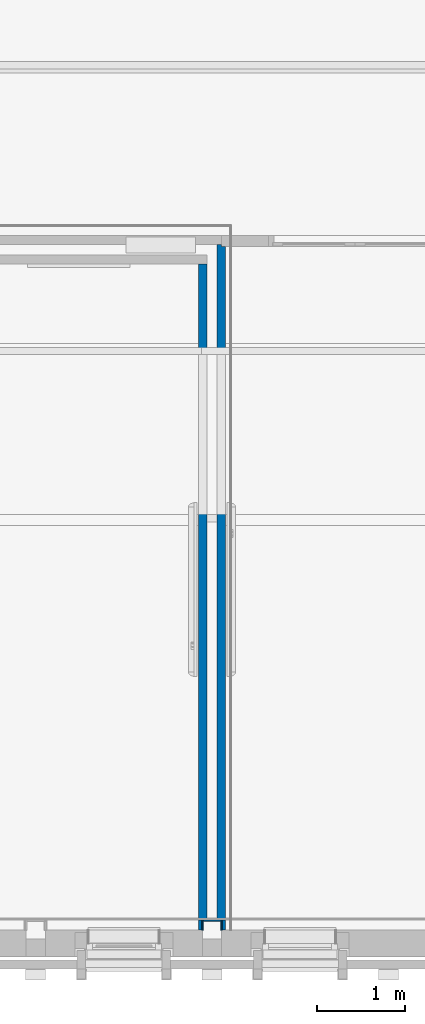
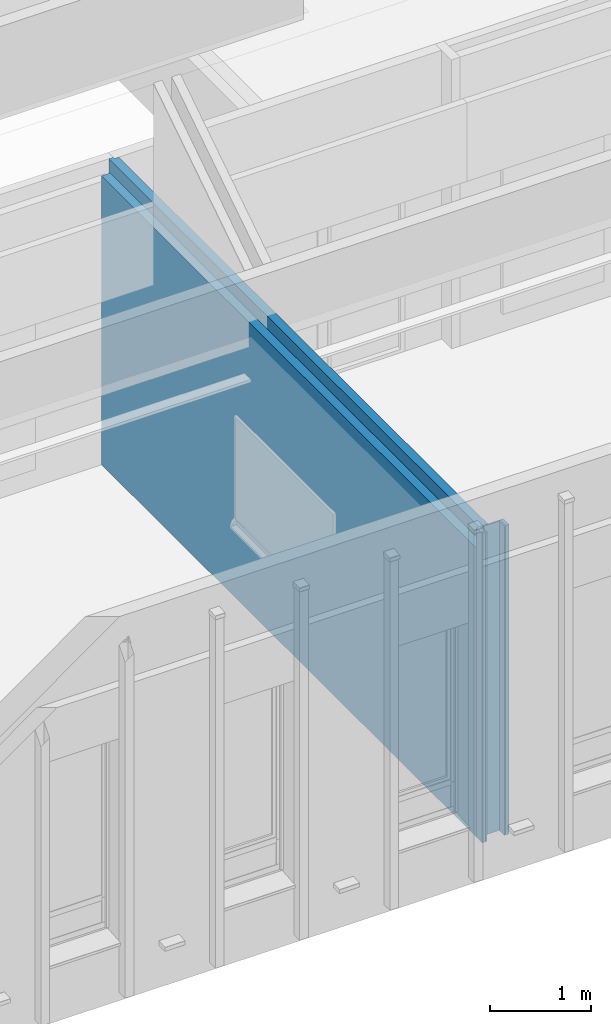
# One storey, part 32 of 118: 7 walls.
"""IFC2X3 building model written with IfcOpenShell, lengths in millimetres."""

from ifc_helpers import new_model, entity, si_unit, converted_unit, derived_unit, direction, frame, frame_2d, origin, place, context, subcontext, project, spatial, polyline, rectangle, outline, extrude, material, layer, layer_set, layer_usage, type_object, element, save


model = new_model("IFC2X3")

# Units and contexts
model_context = context("Model", 3, precision=0.01, world=origin(), true_north=direction((6.123031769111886e-17, 1.0)))
plan_context = context("Plan", 3, precision=0.01, world=origin(), true_north=direction((6.123031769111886e-17, 1.0)))
body_context = subcontext(model_context, "Body", "Model", "MODEL_VIEW")
ifc_project = project(units=[si_unit("LENGTHUNIT", "METRE", prefix="MILLI"), si_unit("AREAUNIT", "SQUARE_METRE"), si_unit("VOLUMEUNIT", "CUBIC_METRE"), converted_unit("PLANEANGLEUNIT", "DEGREE", entity("IfcRatioMeasure", 0.017453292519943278), si_unit("PLANEANGLEUNIT", "RADIAN"), dimensions=[0, 0, 0, 0, 0, 0, 0]), si_unit("MASSUNIT", "GRAM", prefix="KILO"), derived_unit("MASSDENSITYUNIT", [(si_unit("MASSUNIT", "GRAM", prefix="KILO"), 1), (si_unit("LENGTHUNIT", "METRE"), -3)]), derived_unit("IONCONCENTRATIONUNIT", [(si_unit("MASSUNIT", "GRAM", prefix="KILO"), 1), (si_unit("LENGTHUNIT", "METRE"), -3)]), derived_unit("MOMENTOFINERTIAUNIT", [(si_unit("LENGTHUNIT", "METRE"), 4)]), si_unit("TIMEUNIT", "SECOND"), si_unit("FREQUENCYUNIT", "HERTZ"), si_unit("THERMODYNAMICTEMPERATUREUNIT", "DEGREE_CELSIUS"), derived_unit("THERMALTRANSMITTANCEUNIT", [(si_unit("MASSUNIT", "GRAM", prefix="KILO"), 1), (si_unit("THERMODYNAMICTEMPERATUREUNIT", "KELVIN"), -1), (si_unit("TIMEUNIT", "SECOND"), -3)]), derived_unit("THERMALCONDUCTANCEUNIT", [(si_unit("MASSUNIT", "GRAM", prefix="KILO"), 1), (si_unit("THERMODYNAMICTEMPERATUREUNIT", "KELVIN"), -1), (si_unit("TIMEUNIT", "SECOND"), -3), (si_unit("LENGTHUNIT", "METRE"), 1)]), derived_unit("VOLUMETRICFLOWRATEUNIT", [(si_unit("LENGTHUNIT", "METRE"), 3), (si_unit("TIMEUNIT", "SECOND"), -1)]), derived_unit("MASSFLOWRATEUNIT", [(si_unit("MASSUNIT", "GRAM", prefix="KILO"), 1), (si_unit("TIMEUNIT", "SECOND"), -1)]), derived_unit("ROTATIONALFREQUENCYUNIT", [(si_unit("TIMEUNIT", "SECOND"), -1)]), si_unit("ELECTRICCURRENTUNIT", "AMPERE"), si_unit("ELECTRICVOLTAGEUNIT", "VOLT"), si_unit("POWERUNIT", "WATT"), si_unit("FORCEUNIT", "NEWTON", prefix="KILO"), si_unit("ILLUMINANCEUNIT", "LUX"), si_unit("LUMINOUSFLUXUNIT", "LUMEN"), si_unit("LUMINOUSINTENSITYUNIT", "CANDELA"), derived_unit("USERDEFINED", [(si_unit("MASSUNIT", "GRAM", prefix="KILO"), -1), (si_unit("LENGTHUNIT", "METRE"), -2), (si_unit("TIMEUNIT", "SECOND"), 3), (si_unit("LUMINOUSFLUXUNIT", "LUMEN"), 1)]), derived_unit("USERDEFINED", [(si_unit("MASSUNIT", "GRAM", prefix="KILO"), 1), (si_unit("TIMEUNIT", "SECOND"), -3), (si_unit("LENGTHUNIT", "METRE"), 3), (si_unit("ELECTRICCURRENTUNIT", "AMPERE"), -2)]), derived_unit("SOUNDPOWERUNIT", [(si_unit("MASSUNIT", "GRAM", prefix="KILO"), 1), (si_unit("TIMEUNIT", "SECOND"), -3), (si_unit("LENGTHUNIT", "METRE"), 2)]), derived_unit("SOUNDPRESSUREUNIT", [(si_unit("MASSUNIT", "GRAM", prefix="KILO"), 1), (si_unit("LENGTHUNIT", "METRE"), -1), (si_unit("TIMEUNIT", "SECOND"), -2)]), derived_unit("LINEARVELOCITYUNIT", [(si_unit("LENGTHUNIT", "METRE"), 1), (si_unit("TIMEUNIT", "SECOND"), -1)]), si_unit("PRESSUREUNIT", "PASCAL"), derived_unit("USERDEFINED", [(si_unit("MASSUNIT", "GRAM", prefix="KILO"), 1), (si_unit("LENGTHUNIT", "METRE"), -2), (si_unit("TIMEUNIT", "SECOND"), -2)]), derived_unit("LINEARFORCEUNIT", [(si_unit("MASSUNIT", "GRAM", prefix="KILO"), 1), (si_unit("TIMEUNIT", "SECOND"), -2)]), derived_unit("PLANARFORCEUNIT", [(si_unit("MASSUNIT", "GRAM", prefix="KILO"), 1), (si_unit("LENGTHUNIT", "METRE"), -1), (si_unit("TIMEUNIT", "SECOND"), -2)]), derived_unit("SPECIFICHEATCAPACITYUNIT", [(si_unit("THERMODYNAMICTEMPERATUREUNIT", "KELVIN"), -1), (si_unit("LENGTHUNIT", "METRE"), 2), (si_unit("TIMEUNIT", "SECOND"), -2)]), derived_unit("HEATINGVALUEUNIT", [(si_unit("LENGTHUNIT", "METRE"), 2), (si_unit("TIMEUNIT", "SECOND"), -2)]), derived_unit("VAPORPERMEABILITYUNIT", [(si_unit("LENGTHUNIT", "METRE"), -1), (si_unit("TIMEUNIT", "SECOND"), 1)]), derived_unit("DYNAMICVISCOSITYUNIT", [(si_unit("MASSUNIT", "GRAM", prefix="KILO"), 1), (si_unit("TIMEUNIT", "SECOND"), -1), (si_unit("LENGTHUNIT", "METRE"), -1)]), derived_unit("THERMALEXPANSIONCOEFFICIENTUNIT", [(si_unit("THERMODYNAMICTEMPERATUREUNIT", "KELVIN"), -1)]), derived_unit("MODULUSOFELASTICITYUNIT", [(si_unit("MASSUNIT", "GRAM", prefix="KILO"), 1), (si_unit("LENGTHUNIT", "METRE"), -1), (si_unit("TIMEUNIT", "SECOND"), -2)]), derived_unit("ISOTHERMALMOISTURECAPACITYUNIT", [(si_unit("LENGTHUNIT", "METRE"), 3), (si_unit("MASSUNIT", "GRAM", prefix="KILO"), -1)]), derived_unit("MOISTUREDIFFUSIVITYUNIT", [(si_unit("TIMEUNIT", "SECOND"), -1), (si_unit("LENGTHUNIT", "METRE"), 2)])], contexts=[model_context, plan_context])

# Site, building, storey
site_placement = place(None, origin())
site = spatial("IfcSite", under=ifc_project, at=site_placement, Name="Locatie", CompositionType="ELEMENT")
building_placement = place(site_placement, origin())
building = spatial("IfcBuilding", under=site, at=building_placement, Name="Bouwwerk", CompositionType="ELEMENT")
storey_placement = place(building_placement, frame((0.0, 0.0, 7800.0)))
storey = spatial("IfcBuildingStorey", under=building, at=storey_placement, Name="02 tweede verdieping", CompositionType="ELEMENT", Elevation=7800.000000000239)

# Walls
ifc_material_1 = material(Name="f7_gipsvezel")
ifc_layer_1 = layer(ifc_material_1, 12.5)
ifc_material_2 = material(Name="f7_gips")
ifc_layer_2 = layer(ifc_material_2, 12.5)
ifc_material_3 = material(Name="n7_isolatie_glaswol")
ifc_layer_3 = layer(ifc_material_3, 75.0)
ifc_layer_set_1 = layer_set([ifc_layer_1, ifc_layer_2, ifc_layer_3], Name="Basic Wall:22_WA_voorzetwand_ms100 25-75 _gen_bdg")
ifc_layer_usage_1 = layer_usage(ifc_layer_set_1, "AXIS2", "NEGATIVE", 50.0)
wall_type_1 = type_object("IfcWallType", Name="Basic Wall:22_WA_voorzetwand_ms100 25-75 _gen_bdg", PredefinedType="STANDARD", material=ifc_layer_set_1)
wall_1_placement = place(storey_placement, frame((24405.0, 17775.0, 0.0), z_axis=(0.0, 0.0, 1.0), x_axis=(0.0, -1.0, 0.0)))
element("IfcWallStandardCase", 1, at=wall_1_placement, inside=storey, type_object=wall_type_1, material=ifc_layer_usage_1, Name="Basic Wall:22_WA_voorzetwand_ms100 25-75 _gen_bdg", ObjectType="Basic Wall:22_WA_voorzetwand_ms100 25-75 _gen_bdg", context=body_context, shape_type="SweptSolid", body=[
    extrude(outline(polyline([(7660.0, -50.0), (7660.0, 5.0), (7660.0, 50.0), (24.999999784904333, 50.0), (24.999999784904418, 0.0), (0.0, 0.0), (0.0, -50.0), (7660.0, -50.0)])), origin(), (0.0, 0.0, 1.0), 3500.0000000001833),
])
ifc_layer_usage_2 = layer_usage(ifc_layer_set_1, "AXIS2", "POSITIVE", -50.0)
wall_2_placement = place(storey_placement, frame((24195.0, 17555.0, 0.0), z_axis=(0.0, 0.0, 1.0), x_axis=(0.0, -1.0, 0.0)))
element("IfcWallStandardCase", 2, at=wall_2_placement, inside=storey, type_object=wall_type_1, material=ifc_layer_usage_2, Name="Basic Wall:22_WA_voorzetwand_ms100 25-75 _gen_bdg", ObjectType="Basic Wall:22_WA_voorzetwand_ms100 25-75 _gen_bdg", context=body_context, shape_type="SweptSolid", body=[
    extrude(rectangle(XDim=7439.999999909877, YDim=100.00000000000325, at=frame_2d((3719.9999999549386, 2.913225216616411e-13), x_axis=(-1.0, 0.0))), origin(), (0.0, 0.0, 1.0), 3500.0000000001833),
])
ifc_layer_4 = layer(ifc_material_1, 12.5)
ifc_layer_5 = layer(ifc_material_2, 12.5)
ifc_material_4 = material(Name="ISR_Luchtspouw")
ifc_layer_6 = layer(ifc_material_4, 20.0)
ifc_layer_set_2 = layer_set([ifc_layer_4, ifc_layer_5, ifc_layer_6], Name="Basic Wall:22_WA_2xgips+rachels 25-20 _gen_bdg")
ifc_layer_usage_3 = layer_usage(ifc_layer_set_2, "AXIS2", "NEGATIVE", 22.50000000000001)
wall_type_2 = type_object("IfcWallType", Name="Basic Wall:22_WA_2xgips+rachels 25-20 _gen_bdg", PredefinedType="STANDARD", material=ifc_layer_set_2)
wall_3_placement = place(storey_placement, frame((24432.500000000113, 10115.0, 0.0), z_axis=(0.0, 0.0, 1.0), x_axis=(0.0, -1.0, 0.0)))
element("IfcWallStandardCase", 3, at=wall_3_placement, inside=storey, type_object=wall_type_2, material=ifc_layer_usage_3, Name="Basic Wall:22_WA_2xgips+rachels 25-20 _gen_bdg", ObjectType="Basic Wall:22_WA_2xgips+rachels 25-20 _gen_bdg", context=body_context, shape_type="SweptSolid", body=[
    extrude(rectangle(XDim=115.00000000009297, YDim=44.99999999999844, at=frame_2d((57.500000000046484, 7.158718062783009e-13), x_axis=(-1.0, 0.0))), origin(), (0.0, 0.0, 1.0), 3750.000000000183),
])
ifc_layer_usage_4 = layer_usage(ifc_layer_set_2, "AXIS2", "POSITIVE", -22.50000000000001)
wall_4_placement = place(storey_placement, frame((24167.499999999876, 10115.0, 0.0), z_axis=(0.0, 0.0, 1.0), x_axis=(0.0, -1.0, 0.0)))
element("IfcWallStandardCase", 4, at=wall_4_placement, inside=storey, type_object=wall_type_2, material=ifc_layer_usage_4, Name="Basic Wall:22_WA_2xgips+rachels 25-20 _gen_bdg", ObjectType="Basic Wall:22_WA_2xgips+rachels 25-20 _gen_bdg", context=body_context, shape_type="SweptSolid", body=[
    extrude(rectangle(XDim=115.00000000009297, YDim=44.99999999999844, at=frame_2d((57.500000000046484, -7.140954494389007e-13), x_axis=(-1.0, 0.0))), origin(), (0.0, 0.0, 1.0), 3750.000000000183),
])
ifc_material_5 = material(Name="ISR_brandwerende beplating")
ifc_layer_7 = layer(ifc_material_5, 15.0)
ifc_layer_set_3 = layer_set([ifc_layer_7], Name="Basic Wall:NLRS_41_WA_brandwerende beplating 15_gen_ISR")
ifc_layer_usage_5 = layer_usage(ifc_layer_set_3, "AXIS2", "NEGATIVE", 7.5)
wall_type_3 = type_object("IfcWallType", Name="Basic Wall:NLRS_41_WA_brandwerende beplating 15_gen_ISR", PredefinedType="STANDARD", material=ifc_layer_set_3)
wall_5_placement = place(storey_placement, frame((24192.499999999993, 10000.0, 0.0), z_axis=(0.0, 0.0, 1.0), x_axis=(0.0, 1.0, 0.0)))
element("IfcWallStandardCase", 5, at=wall_5_placement, inside=storey, type_object=wall_type_3, material=ifc_layer_usage_5, Name="Basic Wall:NLRS_41_WA_brandwerende beplating 15_gen_ISR", ObjectType="Basic Wall:NLRS_41_WA_brandwerende beplating 15_gen_ISR", context=body_context, shape_type="SweptSolid", body=[
    extrude(rectangle(XDim=114.99999999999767, YDim=14.99999999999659, at=frame_2d((57.499999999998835, 3.3928415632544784e-13), x_axis=(-1.0, 0.0))), origin(), (0.0, 0.0, 1.0), 3750.000000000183),
])
wall_6_placement = place(storey_placement, frame((24200.0, 10107.500000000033, 0.0)))
element("IfcWallStandardCase", 6, at=wall_6_placement, inside=storey, type_object=wall_type_3, material=ifc_layer_usage_5, Name="Basic Wall:NLRS_41_WA_brandwerende beplating 15_gen_ISR", ObjectType="Basic Wall:NLRS_41_WA_brandwerende beplating 15_gen_ISR", context=body_context, shape_type="SweptSolid", body=[
    extrude(rectangle(XDim=214.99999999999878, YDim=15.000000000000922, at=frame_2d((107.49999999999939, -4.489741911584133e-13), x_axis=(-1.0, 0.0))), origin(), (0.0, 0.0, 1.0), 3750.000000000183),
])
wall_7_placement = place(storey_placement, frame((24407.499999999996, 10100.0, 0.0), z_axis=(0.0, 0.0, 1.0), x_axis=(0.0, -1.0, 0.0)))
element("IfcWallStandardCase", 7, at=wall_7_placement, inside=storey, type_object=wall_type_3, material=ifc_layer_usage_5, Name="Basic Wall:NLRS_41_WA_brandwerende beplating 15_gen_ISR", ObjectType="Basic Wall:NLRS_41_WA_brandwerende beplating 15_gen_ISR", context=body_context, shape_type="SweptSolid", body=[
    extrude(rectangle(XDim=99.99999999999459, YDim=14.99999999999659, at=frame_2d((49.99999999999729, 2.9531932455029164e-13), x_axis=(-1.0, 0.0))), origin(), (0.0, 0.0, 1.0), 3750.000000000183),
])

save(model, "model.ifc")
